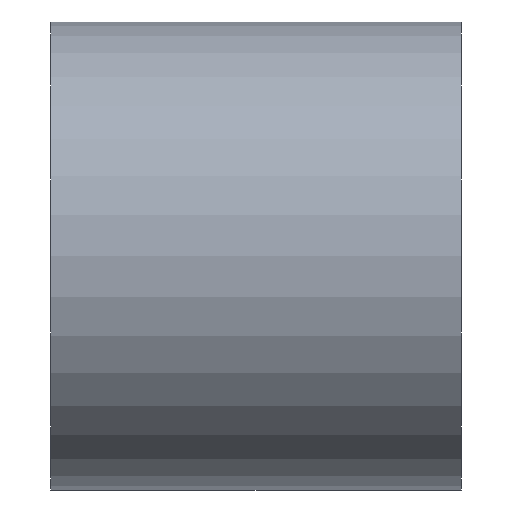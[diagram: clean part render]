
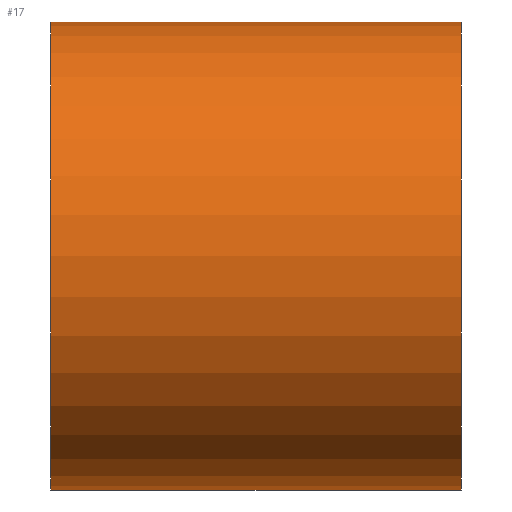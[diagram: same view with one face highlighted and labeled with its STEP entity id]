
A CAD part, front view. The second image highlights one B-rep face of the part: STEP entity #17.
In plain terms, the highlighted cylindrical face has radius 41 mm (diameter 82 mm), a full revolution.
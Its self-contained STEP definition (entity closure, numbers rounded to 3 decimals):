
#17 = ADVANCED_FACE('',(#18),#32,.T.);
#18 = FACE_BOUND('',#19,.F.);
#19 = EDGE_LOOP('',(#20,#50,#77,#78));
#20 = ORIENTED_EDGE('',*,*,#21,.T.);
#21 = EDGE_CURVE('',#22,#24,#26,.T.);
#22 = VERTEX_POINT('',#23);
#23 = CARTESIAN_POINT('',(-36.,41.,0.));
#24 = VERTEX_POINT('',#25);
#25 = CARTESIAN_POINT('',(36.,41.,0.));
#26 = SEAM_CURVE('',#27,(#31,#43),.PCURVE_S1.);
#27 = LINE('',#28,#29);
#28 = CARTESIAN_POINT('',(-36.,41.,0.));
#29 = VECTOR('',#30,1.);
#30 = DIRECTION('',(1.,0.,0.));
#31 = PCURVE('',#32,#37);
#32 = CYLINDRICAL_SURFACE('',#33,41.);
#33 = AXIS2_PLACEMENT_3D('',#34,#35,#36);
#34 = CARTESIAN_POINT('',(-36.,0.,0.));
#35 = DIRECTION('',(-1.,-0.,-0.));
#36 = DIRECTION('',(0.,1.,0.));
#37 = DEFINITIONAL_REPRESENTATION('',(#38),#42);
#38 = LINE('',#39,#40);
#39 = CARTESIAN_POINT('',(-0.,0.));
#40 = VECTOR('',#41,1.);
#41 = DIRECTION('',(-0.,-1.));
#42 = ( GEOMETRIC_REPRESENTATION_CONTEXT(2) 
PARAMETRIC_REPRESENTATION_CONTEXT() REPRESENTATION_CONTEXT('2D SPACE',''
  ) );
#43 = PCURVE('',#32,#44);
#44 = DEFINITIONAL_REPRESENTATION('',(#45),#49);
#45 = LINE('',#46,#47);
#46 = CARTESIAN_POINT('',(-6.283,0.));
#47 = VECTOR('',#48,1.);
#48 = DIRECTION('',(-0.,-1.));
#49 = ( GEOMETRIC_REPRESENTATION_CONTEXT(2) 
PARAMETRIC_REPRESENTATION_CONTEXT() REPRESENTATION_CONTEXT('2D SPACE',''
  ) );
#50 = ORIENTED_EDGE('',*,*,#51,.T.);
#51 = EDGE_CURVE('',#24,#24,#52,.T.);
#52 = SURFACE_CURVE('',#53,(#58,#65),.PCURVE_S1.);
#53 = CIRCLE('',#54,41.);
#54 = AXIS2_PLACEMENT_3D('',#55,#56,#57);
#55 = CARTESIAN_POINT('',(36.,0.,0.));
#56 = DIRECTION('',(1.,0.,0.));
#57 = DIRECTION('',(0.,1.,0.));
#58 = PCURVE('',#32,#59);
#59 = DEFINITIONAL_REPRESENTATION('',(#60),#64);
#60 = LINE('',#61,#62);
#61 = CARTESIAN_POINT('',(-0.,-72.));
#62 = VECTOR('',#63,1.);
#63 = DIRECTION('',(-1.,0.));
#64 = ( GEOMETRIC_REPRESENTATION_CONTEXT(2) 
PARAMETRIC_REPRESENTATION_CONTEXT() REPRESENTATION_CONTEXT('2D SPACE',''
  ) );
#65 = PCURVE('',#66,#71);
#66 = PLANE('',#67);
#67 = AXIS2_PLACEMENT_3D('',#68,#69,#70);
#68 = CARTESIAN_POINT('',(36.,0.,0.));
#69 = DIRECTION('',(1.,0.,0.));
#70 = DIRECTION('',(-0.,0.,1.));
#71 = DEFINITIONAL_REPRESENTATION('',(#72),#76);
#72 = CIRCLE('',#73,41.);
#73 = AXIS2_PLACEMENT_2D('',#74,#75);
#74 = CARTESIAN_POINT('',(0.,0.));
#75 = DIRECTION('',(0.,-1.));
#76 = ( GEOMETRIC_REPRESENTATION_CONTEXT(2) 
PARAMETRIC_REPRESENTATION_CONTEXT() REPRESENTATION_CONTEXT('2D SPACE',''
  ) );
#77 = ORIENTED_EDGE('',*,*,#21,.F.);
#78 = ORIENTED_EDGE('',*,*,#79,.F.);
#79 = EDGE_CURVE('',#22,#22,#80,.T.);
#80 = SURFACE_CURVE('',#81,(#86,#93),.PCURVE_S1.);
#81 = CIRCLE('',#82,41.);
#82 = AXIS2_PLACEMENT_3D('',#83,#84,#85);
#83 = CARTESIAN_POINT('',(-36.,0.,0.));
#84 = DIRECTION('',(1.,0.,0.));
#85 = DIRECTION('',(0.,1.,0.));
#86 = PCURVE('',#32,#87);
#87 = DEFINITIONAL_REPRESENTATION('',(#88),#92);
#88 = LINE('',#89,#90);
#89 = CARTESIAN_POINT('',(-0.,0.));
#90 = VECTOR('',#91,1.);
#91 = DIRECTION('',(-1.,0.));
#92 = ( GEOMETRIC_REPRESENTATION_CONTEXT(2) 
PARAMETRIC_REPRESENTATION_CONTEXT() REPRESENTATION_CONTEXT('2D SPACE',''
  ) );
#93 = PCURVE('',#94,#99);
#94 = PLANE('',#95);
#95 = AXIS2_PLACEMENT_3D('',#96,#97,#98);
#96 = CARTESIAN_POINT('',(-36.,0.,0.)
  );
#97 = DIRECTION('',(1.,0.,0.));
#98 = DIRECTION('',(-0.,0.,1.));
#99 = DEFINITIONAL_REPRESENTATION('',(#100),#104);
#100 = CIRCLE('',#101,41.);
#101 = AXIS2_PLACEMENT_2D('',#102,#103);
#102 = CARTESIAN_POINT('',(0.,0.));
#103 = DIRECTION('',(0.,-1.));
#104 = ( GEOMETRIC_REPRESENTATION_CONTEXT(2) 
PARAMETRIC_REPRESENTATION_CONTEXT() REPRESENTATION_CONTEXT('2D SPACE',''
  ) );
